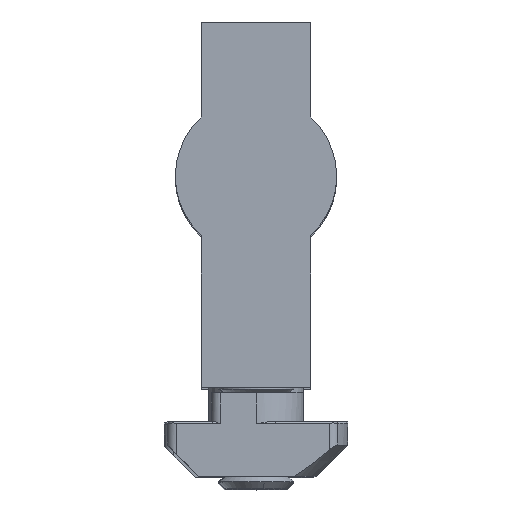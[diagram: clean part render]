
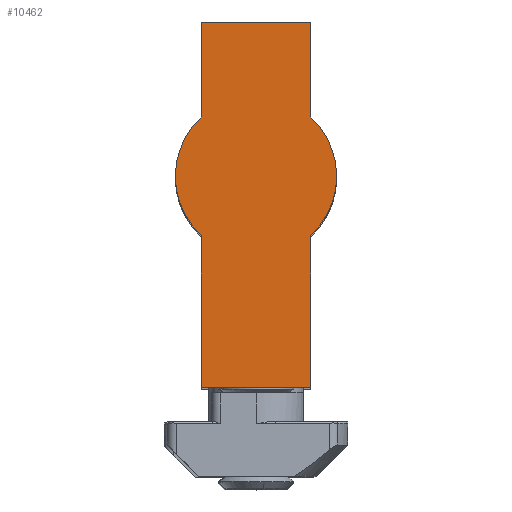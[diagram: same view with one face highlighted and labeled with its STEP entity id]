
A CAD part, top view. The second image highlights one B-rep face of the part: STEP entity #10462.
In plain terms, the highlighted planar face has unit normal (0, 0, 1).
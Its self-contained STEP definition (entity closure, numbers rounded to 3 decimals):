
#319 = DIRECTION ( 'NONE',  ( 1., 0., 0. ) ) ;
#382 = VECTOR ( 'NONE', #6104, 1000. ) ;
#487 = VECTOR ( 'NONE', #10207, 1000. ) ;
#533 = ORIENTED_EDGE ( 'NONE', *, *, #12676, .T. ) ;
#679 = CARTESIAN_POINT ( 'NONE',  ( -5.75, -6.26, 1.5 ) ) ;
#750 = CARTESIAN_POINT ( 'NONE',  ( -5.75, 22.26, 1.5 ) ) ;
#1073 = VERTEX_POINT ( 'NONE', #7233 ) ;
#1380 = VECTOR ( 'NONE', #4170, 1000. ) ;
#1715 = CARTESIAN_POINT ( 'NONE',  ( -5.75, 22.26, 1.5 ) ) ;
#2027 = DIRECTION ( 'NONE',  ( 1., 0., 0. ) ) ;
#2188 = VERTEX_POINT ( 'NONE', #750 ) ;
#2282 = DIRECTION ( 'NONE',  ( 1., 0., 0. ) ) ;
#2381 = LINE ( 'NONE', #9043, #487 ) ;
#2445 = EDGE_CURVE ( 'NONE', #5301, #6513, #14229, .T. ) ;
#2569 = AXIS2_PLACEMENT_3D ( 'NONE', #7284, #13275, #2282 ) ;
#2741 = CARTESIAN_POINT ( 'NONE',  ( -8.5, 0., 1.5 ) ) ;
#2764 = CARTESIAN_POINT ( 'NONE',  ( 5.75, -16.26, 1.5 ) ) ;
#2782 = CARTESIAN_POINT ( 'NONE',  ( -5.75, 6.26, 1.5 ) ) ;
#2900 = LINE ( 'NONE', #2764, #5716 ) ;
#2941 = CARTESIAN_POINT ( 'NONE',  ( 5.75, -6.26, 1.5 ) ) ;
#2953 = PLANE ( 'NONE',  #9205 ) ;
#2978 = LINE ( 'NONE', #679, #8016 ) ;
#3079 = ORIENTED_EDGE ( 'NONE', *, *, #5571, .T. ) ;
#3666 = CARTESIAN_POINT ( 'NONE',  ( 0., 0., 1.5 ) ) ;
#4053 = DIRECTION ( 'NONE',  ( 0., 1., 0. ) ) ;
#4170 = DIRECTION ( 'NONE',  ( -1., 0., 0. ) ) ;
#4181 = CIRCLE ( 'NONE', #2569, 8.5 ) ;
#4338 = ORIENTED_EDGE ( 'NONE', *, *, #2445, .T. ) ;
#4345 = EDGE_CURVE ( 'NONE', #2188, #5301, #5165, .T. ) ;
#4381 = CARTESIAN_POINT ( 'NONE',  ( -5.75, 6.26, 1.5 ) ) ;
#4650 = VERTEX_POINT ( 'NONE', #5800 ) ;
#4694 = EDGE_CURVE ( 'NONE', #6513, #4650, #5905, .T. ) ;
#4989 = ORIENTED_EDGE ( 'NONE', *, *, #4694, .T. ) ;
#5165 = LINE ( 'NONE', #2782, #382 ) ;
#5301 = VERTEX_POINT ( 'NONE', #4381 ) ;
#5438 = AXIS2_PLACEMENT_3D ( 'NONE', #3666, #10341, #5841 ) ;
#5571 = EDGE_CURVE ( 'NONE', #4650, #9064, #2978, .T. ) ;
#5716 = VECTOR ( 'NONE', #4053, 1000. ) ;
#5800 = CARTESIAN_POINT ( 'NONE',  ( -5.75, -6.26, 1.5 ) ) ;
#5841 = DIRECTION ( 'NONE',  ( 1., 0., 0. ) ) ;
#5905 = CIRCLE ( 'NONE', #11462, 8.5 ) ;
#6104 = DIRECTION ( 'NONE',  ( 0., -1., 0. ) ) ;
#6513 = VERTEX_POINT ( 'NONE', #2741 ) ;
#6874 = EDGE_CURVE ( 'NONE', #9064, #1073, #13950, .T. ) ;
#7225 = CARTESIAN_POINT ( 'NONE',  ( -5.75, -16.26, 1.5 ) ) ;
#7233 = CARTESIAN_POINT ( 'NONE',  ( 5.75, -16.26, 1.5 ) ) ;
#7284 = CARTESIAN_POINT ( 'NONE',  ( 0., 0., 1.5 ) ) ;
#7288 = ORIENTED_EDGE ( 'NONE', *, *, #7377, .T. ) ;
#7377 = EDGE_CURVE ( 'NONE', #13320, #2188, #12786, .T. ) ;
#7623 = ORIENTED_EDGE ( 'NONE', *, *, #6874, .T. ) ;
#7823 = ORIENTED_EDGE ( 'NONE', *, *, #4345, .T. ) ;
#8016 = VECTOR ( 'NONE', #13760, 1000. ) ;
#8498 = VECTOR ( 'NONE', #2027, 1000. ) ;
#8746 = ORIENTED_EDGE ( 'NONE', *, *, #13111, .T. ) ;
#8942 = EDGE_CURVE ( 'NONE', #1073, #13086, #2900, .T. ) ;
#9043 = CARTESIAN_POINT ( 'NONE',  ( 5.75, 6.26, 1.5 ) ) ;
#9064 = VERTEX_POINT ( 'NONE', #14189 ) ;
#9205 = AXIS2_PLACEMENT_3D ( 'NONE', #9617, #12799, #12881 ) ;
#9411 = ORIENTED_EDGE ( 'NONE', *, *, #8942, .T. ) ;
#9617 = CARTESIAN_POINT ( 'NONE',  ( 0., 0., 1.5 ) ) ;
#10008 = CARTESIAN_POINT ( 'NONE',  ( 0., 0., 1.5 ) ) ;
#10207 = DIRECTION ( 'NONE',  ( 0., 1., 0. ) ) ;
#10227 = DIRECTION ( 'NONE',  ( 0., 0., 1. ) ) ;
#10341 = DIRECTION ( 'NONE',  ( 0., 0., 1. ) ) ;
#10462 = ADVANCED_FACE ( 'NONE', ( #10706 ), #2953, .T. ) ;
#10470 = EDGE_LOOP ( 'NONE', ( #4338, #4989, #3079, #7623, #9411, #8746, #533, #7288, #7823 ) ) ;
#10666 = VERTEX_POINT ( 'NONE', #11404 ) ;
#10706 = FACE_OUTER_BOUND ( 'NONE', #10470, .T. ) ;
#11116 = CARTESIAN_POINT ( 'NONE',  ( 5.75, 22.26, 1.5 ) ) ;
#11404 = CARTESIAN_POINT ( 'NONE',  ( 5.75, 6.26, 1.5 ) ) ;
#11462 = AXIS2_PLACEMENT_3D ( 'NONE', #10008, #10227, #319 ) ;
#12676 = EDGE_CURVE ( 'NONE', #10666, #13320, #2381, .T. ) ;
#12786 = LINE ( 'NONE', #1715, #1380 ) ;
#12799 = DIRECTION ( 'NONE',  ( 0., 0., 1. ) ) ;
#12881 = DIRECTION ( 'NONE',  ( 1., 0., 0. ) ) ;
#13086 = VERTEX_POINT ( 'NONE', #2941 ) ;
#13111 = EDGE_CURVE ( 'NONE', #13086, #10666, #4181, .T. ) ;
#13275 = DIRECTION ( 'NONE',  ( 0., 0., 1. ) ) ;
#13320 = VERTEX_POINT ( 'NONE', #11116 ) ;
#13760 = DIRECTION ( 'NONE',  ( 0., -1., 0. ) ) ;
#13950 = LINE ( 'NONE', #7225, #8498 ) ;
#14189 = CARTESIAN_POINT ( 'NONE',  ( -5.75, -16.26, 1.5 ) ) ;
#14229 = CIRCLE ( 'NONE', #5438, 8.5 ) ;
